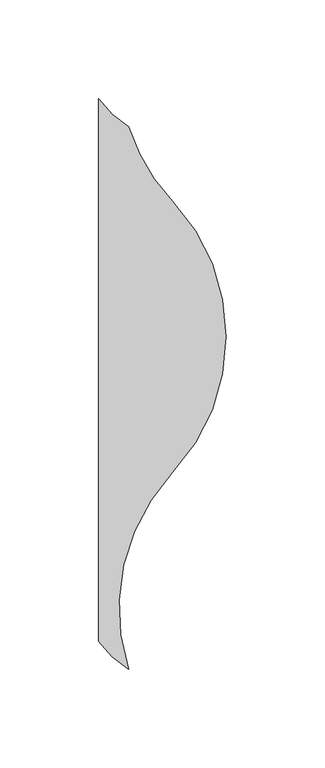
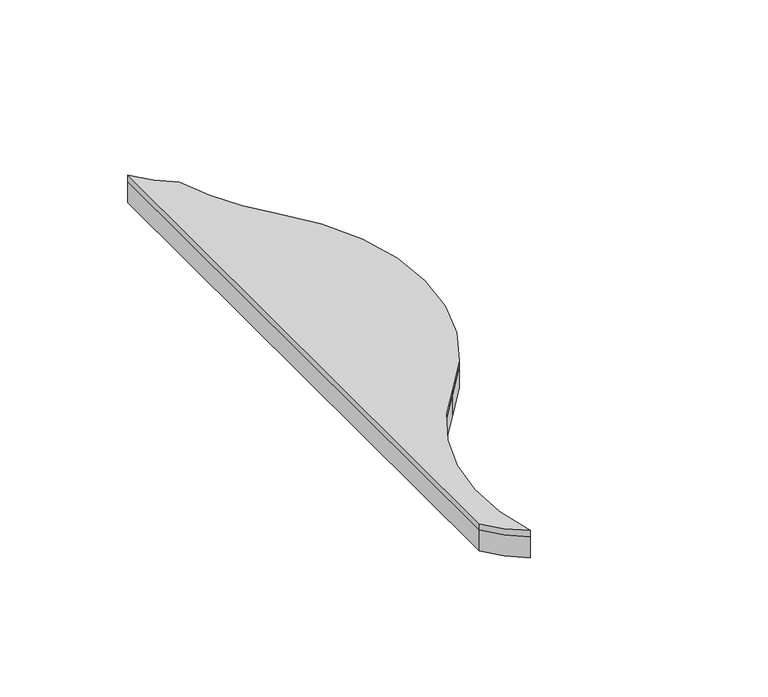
"""IFC4 building model written with IfcOpenShell, lengths in millimetres: proxy geometry, FilzFelt_Fish_Block : Fish Block."""

from ifc_helpers import new_model, si_unit, frame, origin, place, context, project, spatial, polyline, circle_curve, source, transform, mapped, element, save
from ifc_brep_helpers import plane_surface, cylinder_surface, revolved_surface, advanced_brep


def specialty_equipment_bcb07fab(model_context):
    return source(origin(), model_context, "Body", "AdvancedBrep", [
        advanced_brep(
        [(53.5486457, 68.6120133, 10.0210937), (53.5486457, -68.6120133, 10.0210937), (31.2619065, -168.1141956, 10.0210937), (16.1629825, -154.0778253, 10.0210937), (16.1629825, 120.3702279, 10.0210937), (31.2619065, 106.3338576, 10.0210937), (53.5486457, 68.6120133, 12.9976563), (31.2619065, 106.3338576, 12.9976563), (16.1629825, 120.3702279, 12.9976563), (16.1629825, -154.0778253, 12.9976563), (31.2619065, -168.1141956, 12.9976563), (53.5486457, -68.6120133, 12.9976563), (80.7142226, 0.0, 12.9976563)],
        [
            (0, 1, circle_curve(frame((-19.5151403, 0.0, 10.0210937), z_axis=(0.0, 0.0, -1.0), x_axis=(-1.0, 0.0, 0.0)), 100.2293629)),
            (1, 2, circle_curve(frame((126.6124317, -137.2240266, 10.0210937), z_axis=(0.0, 0.0, 1.0), x_axis=(-1.0, 0.0, 0.0)), 100.2293629)),
            (2, 3, circle_curve(frame((57.9263497, -124.2921115, 10.0210937), z_axis=(0.0, 0.0, -1.0), x_axis=(-1.0, 0.0, 0.0)), 51.2968574)),
            (3, 4),
            (4, 5, circle_curve(frame((57.9263497, 150.1559416, 10.0210937), z_axis=(0.0, 0.0, 1.0), x_axis=(-1.0, 0.0, 0.0)), 51.2968574)),
            (5, 0, circle_curve(frame((126.6124317, 137.2240266, 10.0210937), z_axis=(0.0, 0.0, 1.0), x_axis=(-1.0, 0.0, 0.0)), 100.2293629)),
            (6, 7, circle_curve(frame((126.6124317, 137.2240266, 12.9976563), z_axis=(0.0, 0.0, -1.0), x_axis=(-1.0, 0.0, 0.0)), 100.2293629)),
            (7, 8, circle_curve(frame((57.9263497, 150.1559416, 12.9976563), z_axis=(0.0, 0.0, -1.0), x_axis=(-1.0, 0.0, 0.0)), 51.2968574)),
            (8, 9),
            (9, 10, circle_curve(frame((57.9263497, -124.2921115, 12.9976563), z_axis=(0.0, 0.0, 1.0), x_axis=(-1.0, 0.0, 0.0)), 51.2968574)),
            (10, 11, circle_curve(frame((126.6124317, -137.2240266, 12.9976563), z_axis=(0.0, 0.0, -1.0), x_axis=(-1.0, 0.0, 0.0)), 100.2293629)),
            (11, 12, circle_curve(frame((-19.5151403, 0.0, 12.9976563), z_axis=(0.0, 0.0, 1.0), x_axis=(-1.0, 0.0, 0.0)), 100.2293629)),
            (12, 6, circle_curve(frame((-19.5151403, 0.0, 12.9976563), z_axis=(0.0, 0.0, 1.0), x_axis=(-1.0, 0.0, 0.0)), 100.2293629)),
            (0, 6),
            (11, 1),
            (10, 2),
            (9, 3),
            (7, 5),
            (4, 8),
        ],
        [
            plane_surface(frame((0.0, 0.0, 10.0210937), z_axis=(0.0, 0.0, -1.0), x_axis=(0.0, -1.0, 0.0))),
            plane_surface(frame((0.0, 0.0, 12.9976563), z_axis=(0.0, 0.0, 1.0), x_axis=(0.0, -1.0, 0.0))),
            cylinder_surface(frame((-19.5151403, 0.0, 10.0210937), z_axis=(0.0, 0.0, -1.0), x_axis=(-1.0, 0.0, 0.0)), 100.2293629),
            revolved_surface(polyline([(26.383068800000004, -137.2240266, 12.9976563), (26.383068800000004, -137.2240266, 10.0210937)]), (126.6124317, -137.2240266, 10.0210937), (0.0, 0.0, 1.0)),
            cylinder_surface(frame((57.9263497, -124.2921115, 10.0210937), z_axis=(0.0, 0.0, -1.0), x_axis=(-1.0, 0.0, 0.0)), 51.2968574),
            revolved_surface(polyline([(6.629492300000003, 150.1559416, 12.9976563), (6.629492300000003, 150.1559416, 10.0210937)]), (57.9263497, 150.1559416, 10.0210937), (0.0, 0.0, 1.0)),
            revolved_surface(polyline([(26.383068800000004, 137.2240266, 12.9976563), (26.383068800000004, 137.2240266, 10.0210937)]), (126.6124317, 137.2240266, 10.0210937), (0.0, 0.0, 1.0)),
            plane_surface(frame((16.1629825, 168.3338795, 12.9976562), z_axis=(-1.0, 0.0, 0.0), x_axis=(0.0, -1.0, 0.0))),
        ],
        [
            (0, [[1, 2, 3, 4, 5, 6]]),
            (1, [[7, 8, 9, 10, 11, 12, 13]]),
            (2, [[-1, 14, -13, -12, 15]]),
            (3, [[-2, -15, -11, 16]]),
            (4, [[-16, -10, 17, -3]]),
            (5, [[18, -5, 19, -8]]),
            (6, [[-6, -18, -7, -14]]),
            (7, [[-4, -17, -9, -19]]),
        ],
    ),
        advanced_brep(
        [(31.2619065, 106.3338576, 0.0), (53.5486457, 68.6120133, 0.0), (80.7142226, 0.0, 0.0), (53.5486457, -68.6120133, 0.0), (31.2619065, -168.1141956, 0.0), (16.1629825, -154.0778253, 0.0), (16.1629825, 120.3702279, 0.0), (31.2619065, -168.1141956, 10.0210937), (53.5486457, -68.6120133, 10.0210937), (53.5486457, 68.6120133, 10.0210937), (31.2619065, 106.3338576, 10.0210937), (16.1629825, 120.3702279, 10.0210937), (16.1629825, -154.0778253, 10.0210937)],
        [
            (0, 1, circle_curve(frame((126.6124317, 137.2240266, 0.0), z_axis=(0.0, 0.0, 1.0), x_axis=(-1.0, 0.0, 0.0)), 100.2293629)),
            (1, 2, circle_curve(frame((-19.5151403, 0.0, 0.0), z_axis=(0.0, 0.0, -1.0), x_axis=(-1.0, 0.0, 0.0)), 100.2293629)),
            (2, 3, circle_curve(frame((-19.5151403, 0.0, 0.0), z_axis=(0.0, 0.0, -1.0), x_axis=(-1.0, 0.0, 0.0)), 100.2293629)),
            (3, 4, circle_curve(frame((126.6124317, -137.2240266, 0.0), z_axis=(0.0, 0.0, 1.0), x_axis=(-1.0, 0.0, 0.0)), 100.2293629)),
            (4, 5, circle_curve(frame((57.9263497, -124.2921115, 0.0), z_axis=(0.0, 0.0, -1.0), x_axis=(-1.0, 0.0, 0.0)), 51.2968574)),
            (5, 6),
            (6, 0, circle_curve(frame((57.9263497, 150.1559416, 0.0), z_axis=(0.0, 0.0, 1.0), x_axis=(-1.0, 0.0, 0.0)), 51.2968574)),
            (7, 8, circle_curve(frame((126.6124317, -137.2240266, 10.0210937), z_axis=(0.0, 0.0, -1.0), x_axis=(-1.0, 0.0, 0.0)), 100.2293629)),
            (8, 9, circle_curve(frame((-19.5151403, 0.0, 10.0210937), z_axis=(0.0, 0.0, 1.0), x_axis=(-1.0, 0.0, 0.0)), 100.2293629)),
            (9, 10, circle_curve(frame((126.6124317, 137.2240266, 10.0210937), z_axis=(0.0, 0.0, -1.0), x_axis=(-1.0, 0.0, 0.0)), 100.2293629)),
            (10, 11, circle_curve(frame((57.9263497, 150.1559416, 10.0210937), z_axis=(0.0, 0.0, -1.0), x_axis=(-1.0, 0.0, 0.0)), 51.2968574)),
            (11, 12),
            (12, 7, circle_curve(frame((57.9263497, -124.2921115, 10.0210937), z_axis=(0.0, 0.0, 1.0), x_axis=(-1.0, 0.0, 0.0)), 51.2968574)),
            (4, 7),
            (12, 5),
            (10, 0),
            (6, 11),
            (9, 1),
            (8, 3),
        ],
        [
            plane_surface(frame((0.0, 0.0, 0.0), z_axis=(0.0, 0.0, -1.0), x_axis=(0.0, -1.0, 0.0))),
            plane_surface(frame((0.0, 0.0, 10.0210937), z_axis=(0.0, 0.0, 1.0), x_axis=(0.0, -1.0, 0.0))),
            cylinder_surface(frame((57.9263497, -124.2921115, 0.0), z_axis=(0.0, 0.0, -1.0), x_axis=(-1.0, 0.0, 0.0)), 51.2968574),
            revolved_surface(polyline([(6.629492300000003, 150.1559416, 10.0210937), (6.629492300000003, 150.1559416, 0.0)]), (57.9263497, 150.1559416, 0.0), (0.0, 0.0, 1.0)),
            revolved_surface(polyline([(26.383068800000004, 137.2240266, 10.0210937), (26.383068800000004, 137.2240266, 0.0)]), (126.6124317, 137.2240266, 0.0), (0.0, 0.0, 1.0)),
            cylinder_surface(frame((-19.5151403, 0.0, 0.0), z_axis=(0.0, 0.0, -1.0), x_axis=(-1.0, 0.0, 0.0)), 100.2293629),
            revolved_surface(polyline([(26.383068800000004, -137.2240266, 10.0210937), (26.383068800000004, -137.2240266, 0.0)]), (126.6124317, -137.2240266, 0.0), (0.0, 0.0, 1.0)),
            plane_surface(frame((16.1629825, 168.3338795, 12.9976562), z_axis=(-1.0, 0.0, 0.0), x_axis=(0.0, -1.0, 0.0))),
        ],
        [
            (0, [[1, 2, 3, 4, 5, 6, 7]]),
            (1, [[8, 9, 10, 11, 12, 13]]),
            (2, [[14, -13, 15, -5]]),
            (3, [[16, -7, 17, -11]]),
            (4, [[-1, -16, -10, 18]]),
            (5, [[-9, 19, -3, -2, -18]]),
            (6, [[-4, -19, -8, -14]]),
            (7, [[-6, -15, -12, -17]]),
        ],
    ),
    ])


if __name__ == "__main__":
    model = new_model("IFC4")
    model_context = context("Model", 3, world=origin())
    ifc_project = project(units=[si_unit("LENGTHUNIT", "METRE", prefix="MILLI")], contexts=[model_context])
    site = spatial("IfcSite", under=ifc_project)
    building = spatial("IfcBuilding", under=site)
    placement = place(None, origin())
    specialty_equipment_shape = specialty_equipment_bcb07fab(model_context)
    element("IfcBuildingElementProxy", 1, Name="FilzFelt_Fish_Block : Fish Block", ObjectType="FilzFelt_Fish_Block : Fish Block", at=placement, inside=building, context=model_context, shape_type="MappedRepresentation", body=[
        mapped(specialty_equipment_shape, transform((0.0, 0.0, 0.0), x_axis=(1.0, 0.0, 0.0), y_axis=(0.0, 1.0, 0.0), z_axis=(0.0, 0.0, 1.0))),
    ])
    save(model, "model.ifc")
